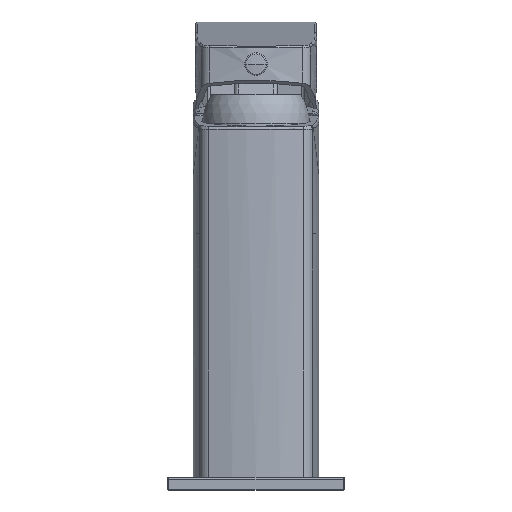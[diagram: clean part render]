
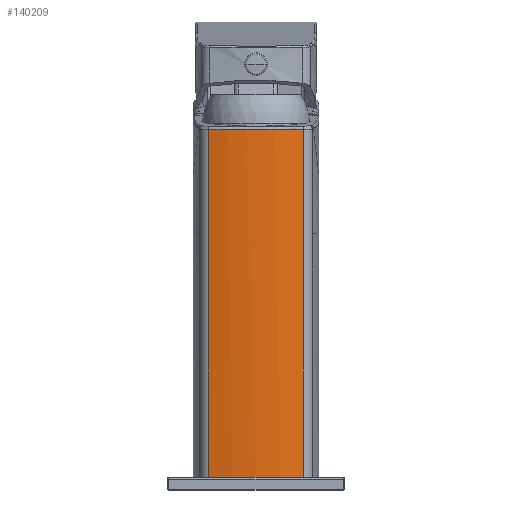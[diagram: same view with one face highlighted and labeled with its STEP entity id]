
A CAD part, top view. The second image highlights one B-rep face of the part: STEP entity #140209.
In plain terms, the highlighted cylindrical face has radius 50.6 mm (diameter 101.2 mm), a partial arc.
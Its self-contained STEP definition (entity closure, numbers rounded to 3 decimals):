
#46391=CARTESIAN_POINT('',(0.,0.,-33.));
#46392=DIRECTION('',(0.,1.,0.));
#46393=DIRECTION('',(-0.263,0.,0.965));
#46394=AXIS2_PLACEMENT_3D('',#46391,#46392,#46393);
#46396=CARTESIAN_POINT('',(13.295,97.747,15.822));
#46397=CARTESIAN_POINT('',(12.754,97.734,15.97));
#46398=CARTESIAN_POINT('',(11.667,97.711,16.246));
#46399=CARTESIAN_POINT('',(10.024,97.681,16.607));
#46400=CARTESIAN_POINT('',(8.37,97.655,16.912));
#46401=CARTESIAN_POINT('',(6.707,97.633,17.163));
#46402=CARTESIAN_POINT('',(5.037,97.617,17.358));
#46403=CARTESIAN_POINT('',(3.361,97.605,17.498));
#46404=CARTESIAN_POINT('',(1.681,97.598,17.581));
#46405=CARTESIAN_POINT('',(0.,97.596,
17.609));
#46406=CARTESIAN_POINT('',(-1.682,97.598,
17.581));
#46407=CARTESIAN_POINT('',(-3.361,97.605,
17.498));
#46408=CARTESIAN_POINT('',(-5.037,97.617,
17.358));
#46409=CARTESIAN_POINT('',(-6.708,97.633,
17.163));
#46410=CARTESIAN_POINT('',(-8.371,97.655,
16.912));
#46411=CARTESIAN_POINT('',(-10.024,97.681,
16.607));
#46412=CARTESIAN_POINT('',(-11.667,97.711,
16.246));
#46413=CARTESIAN_POINT('',(-12.754,97.734,
15.97));
#46414=CARTESIAN_POINT('',(-13.295,97.747,
15.822));
#46421=CARTESIAN_POINT('',(-13.295,97.747,
15.822));
#46441=DIRECTION('',(0.,1.,0.));
#46442=VECTOR('',#46441,97.747);
#46443=CARTESIAN_POINT('',(-13.295,0.,15.822));
#46444=LINE('',#46443,#46442);
#46646=DIRECTION('',(0.,1.,0.));
#46647=VECTOR('',#46646,97.747);
#46648=CARTESIAN_POINT('',(13.295,0.,15.822));
#46649=LINE('',#46648,#46647);
#79474=VERTEX_POINT('',#46421);
#79475=VERTEX_POINT('',#46396);
#81339=CARTESIAN_POINT('',(-13.295,0.,15.822));
#81340=CARTESIAN_POINT('',(13.295,0.,15.822));
#81341=VERTEX_POINT('',#81339);
#81342=VERTEX_POINT('',#81340);
#140195=CARTESIAN_POINT('',(0.,0.,-33.));
#140196=DIRECTION('',(0.,1.,0.));
#140197=DIRECTION('',(0.,0.,-1.));
#140198=AXIS2_PLACEMENT_3D('',#140195,#140196,#140197);
#140199=CYLINDRICAL_SURFACE('',#140198,50.6);
#140200=ORIENTED_EDGE('',*,*,#107996,.F.);
#140202=ORIENTED_EDGE('',*,*,#140201,.T.);
#140204=ORIENTED_EDGE('',*,*,#140203,.F.);
#140206=ORIENTED_EDGE('',*,*,#140205,.F.);
#140207=EDGE_LOOP('',(#140200,#140202,#140204,#140206));
#140208=FACE_OUTER_BOUND('',#140207,.F.);
#140209=ADVANCED_FACE('',(#140208),#140199,.T.);
#46395=CIRCLE('',#46394,50.6);
#46415=B_SPLINE_CURVE_WITH_KNOTS('',3,(#46396,#46397,#46398,#46399,#46400,
#46401,#46402,#46403,#46404,#46405,#46406,#46407,#46408,#46409,#46410,#46411,
#46412,#46413,#46414),.UNSPECIFIED.,.F.,.F.,(4,1,1,1,1,1,1,1,1,1,1,1,1,1,1,1,4),
(0.,0.063,0.125,0.188,0.25,0.313,0.375,0.438,0.5,0.563,
0.625,0.688,0.75,0.813,0.875,0.938,1.),.UNSPECIFIED.);
#107996=EDGE_CURVE('',#81341,#81342,#46395,.T.);
#140201=EDGE_CURVE('',#81341,#79474,#46444,.T.);
#140203=EDGE_CURVE('',#79475,#79474,#46415,.T.);
#140205=EDGE_CURVE('',#81342,#79475,#46649,.T.);
